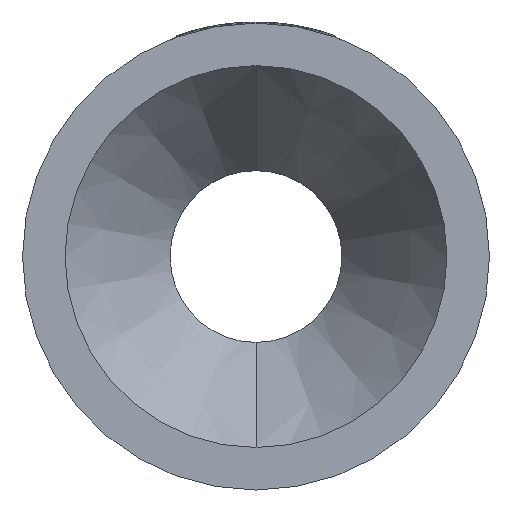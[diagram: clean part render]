
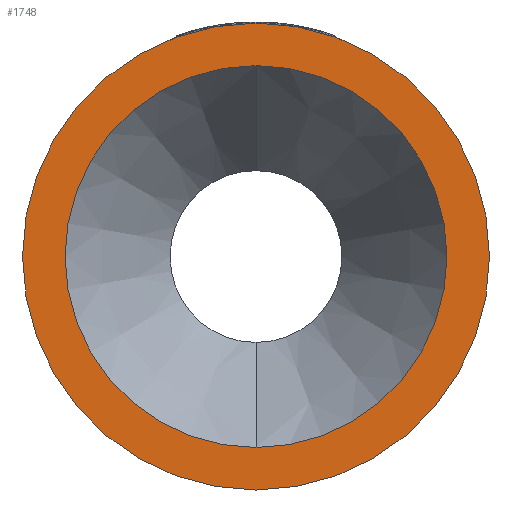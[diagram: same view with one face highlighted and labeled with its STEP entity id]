
A CAD part, left-side view. The second image highlights one B-rep face of the part: STEP entity #1748.
In plain terms, the highlighted planar face has unit normal (-1, 0, 0).
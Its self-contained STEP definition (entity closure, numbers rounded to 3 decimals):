
#317 = DIRECTION ( 'NONE',  ( 0., 0., 1. ) ) ;
#351 = EDGE_CURVE ( 'NONE', #3150, #1361, #2801, .T. ) ;
#387 = EDGE_CURVE ( 'NONE', #677, #1463, #3443, .T. ) ;
#503 = AXIS2_PLACEMENT_3D ( 'NONE', #2200, #864, #899 ) ;
#605 = AXIS2_PLACEMENT_3D ( 'NONE', #3446, #903, #317 ) ;
#668 = AXIS2_PLACEMENT_3D ( 'NONE', #2544, #2521, #2503 ) ;
#674 = AXIS2_PLACEMENT_3D ( 'NONE', #2672, #2661, #2640 ) ;
#677 = VERTEX_POINT ( 'NONE', #2389 ) ;
#864 = DIRECTION ( 'NONE',  ( -1., 0., 0. ) ) ;
#899 = DIRECTION ( 'NONE',  ( 0., 0., 1. ) ) ;
#903 = DIRECTION ( 'NONE',  ( -1., 0., 0. ) ) ;
#905 = EDGE_CURVE ( 'NONE', #1463, #677, #2197, .T. ) ;
#1044 = EDGE_CURVE ( 'NONE', #1361, #3150, #3255, .T. ) ;
#1186 = CARTESIAN_POINT ( 'NONE',  ( 0., 0., -81.8 ) ) ;
#1311 = ORIENTED_EDGE ( 'NONE', *, *, #351, .F. ) ;
#1361 = VERTEX_POINT ( 'NONE', #1186 ) ;
#1463 = VERTEX_POINT ( 'NONE', #3048 ) ;
#1632 = ORIENTED_EDGE ( 'NONE', *, *, #387, .T. ) ;
#1748 = ADVANCED_FACE ( 'NONE', ( #2028, #2878 ), #2668, .F. ) ;
#1974 = EDGE_LOOP ( 'NONE', ( #2965, #1632 ) ) ;
#2028 = FACE_BOUND ( 'NONE', #2664, .T. ) ;
#2197 = CIRCLE ( 'NONE', #605, 100. ) ;
#2200 = CARTESIAN_POINT ( 'NONE',  ( 0., 0., 0. ) ) ;
#2300 = ORIENTED_EDGE ( 'NONE', *, *, #1044, .F. ) ;
#2389 = CARTESIAN_POINT ( 'NONE',  ( 0., 0., -100. ) ) ;
#2460 = CARTESIAN_POINT ( 'NONE',  ( 0., 0., 81.8 ) ) ;
#2503 = DIRECTION ( 'NONE',  ( 0., 0., 1. ) ) ;
#2521 = DIRECTION ( 'NONE',  ( -1., 0., 0. ) ) ;
#2544 = CARTESIAN_POINT ( 'NONE',  ( 0., 0., 0. ) ) ;
#2560 = DIRECTION ( 'NONE',  ( 0., 0., -1. ) ) ;
#2564 = DIRECTION ( 'NONE',  ( 1., 0., 0. ) ) ;
#2576 = CARTESIAN_POINT ( 'NONE',  ( 0., 81.8, 0. ) ) ;
#2640 = DIRECTION ( 'NONE',  ( 0., 0., 1. ) ) ;
#2661 = DIRECTION ( 'NONE',  ( -1., 0., 0. ) ) ;
#2664 = EDGE_LOOP ( 'NONE', ( #1311, #2300 ) ) ;
#2668 = PLANE ( 'NONE',  #3397 ) ;
#2672 = CARTESIAN_POINT ( 'NONE',  ( 0., 0., 0. ) ) ;
#2801 = CIRCLE ( 'NONE', #674, 81.8 ) ;
#2878 = FACE_OUTER_BOUND ( 'NONE', #1974, .T. ) ;
#2965 = ORIENTED_EDGE ( 'NONE', *, *, #905, .T. ) ;
#3048 = CARTESIAN_POINT ( 'NONE',  ( 0., 0., 100. ) ) ;
#3150 = VERTEX_POINT ( 'NONE', #2460 ) ;
#3255 = CIRCLE ( 'NONE', #503, 81.8 ) ;
#3397 = AXIS2_PLACEMENT_3D ( 'NONE', #2576, #2564, #2560 ) ;
#3443 = CIRCLE ( 'NONE', #668, 100. ) ;
#3446 = CARTESIAN_POINT ( 'NONE',  ( 0., 0., 0. ) ) ;
